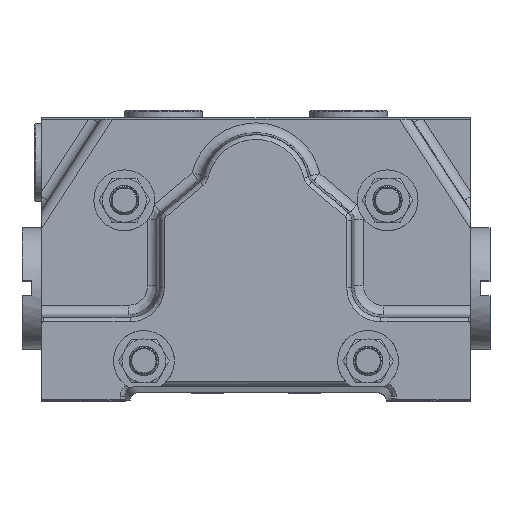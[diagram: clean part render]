
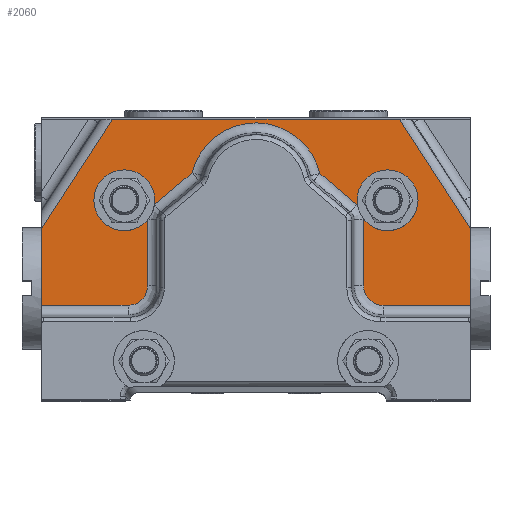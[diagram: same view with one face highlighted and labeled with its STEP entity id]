
A CAD part, top view. The second image highlights one B-rep face of the part: STEP entity #2060.
In plain terms, the highlighted planar face has unit normal (0, 0, 1).
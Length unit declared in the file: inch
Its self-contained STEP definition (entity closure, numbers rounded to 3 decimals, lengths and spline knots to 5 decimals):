
#337=DIRECTION('',(-1.,0.,0.));
#338=VECTOR('',#337,1.10943);
#339=CARTESIAN_POINT('',(-1.01557,-1.49635,1.186));
#340=LINE('',#339,#338);
#350=CARTESIAN_POINT('',(2.313,-0.14881,1.186));
#351=DIRECTION('',(0.,0.,-1.));
#352=DIRECTION('',(1.,0.,0.));
#353=AXIS2_PLACEMENT_3D('',#350,#351,#352);
#355=CARTESIAN_POINT('',(2.313,-0.14881,1.186));
#356=DIRECTION('',(0.,0.,-1.));
#357=DIRECTION('',(-1.,0.,0.));
#358=AXIS2_PLACEMENT_3D('',#355,#356,#357);
#360=CARTESIAN_POINT('',(2.313,-0.14881,1.186));
#361=DIRECTION('',(0.,0.,-1.));
#362=DIRECTION('',(-0.986,-0.169,0.));
#363=AXIS2_PLACEMENT_3D('',#360,#361,#362);
#365=CARTESIAN_POINT('',(-1.063,-0.14881,1.186));
#366=DIRECTION('',(0.,0.,1.));
#367=DIRECTION('',(0.99,-0.143,0.));
#368=AXIS2_PLACEMENT_3D('',#365,#366,#367);
#370=CARTESIAN_POINT('',(-1.063,-0.14881,1.186));
#371=DIRECTION('',(0.,0.,1.));
#372=DIRECTION('',(1.,0.,0.));
#373=AXIS2_PLACEMENT_3D('',#370,#371,#372);
#375=CARTESIAN_POINT('',(-1.063,-0.14881,1.186));
#376=DIRECTION('',(0.,0.,1.));
#377=DIRECTION('',(-1.,0.,0.));
#378=AXIS2_PLACEMENT_3D('',#375,#376,#377);
#380=DIRECTION('',(0.,1.,0.));
#381=VECTOR('',#380,0.982);
#382=CARTESIAN_POINT('',(-2.125,-1.49635,1.186));
#383=LINE('',#382,#381);
#384=DIRECTION('',(1.,0.,0.));
#385=VECTOR('',#384,3.68);
#386=CARTESIAN_POINT('',(-1.215,0.88819,1.186));
#387=LINE('',#386,#385);
#388=DIRECTION('',(0.,1.,0.));
#389=VECTOR('',#388,0.982);
#390=CARTESIAN_POINT('',(3.375,-1.49635,1.186));
#391=LINE('',#390,#389);
#421=CARTESIAN_POINT('',(2.00556,-0.38958,1.186));
#422=CARTESIAN_POINT('',(2.00558,-0.39059,1.186));
#423=CARTESIAN_POINT('',(2.00565,-0.39261,1.186));
#424=CARTESIAN_POINT('',(2.00565,-0.39462,1.186));
#425=CARTESIAN_POINT('',(2.00565,-0.39562,1.186));
#427=CARTESIAN_POINT('',(1.91748,-0.20511,1.186));
#428=CARTESIAN_POINT('',(1.91929,-0.20664,1.186));
#429=CARTESIAN_POINT('',(1.92288,-0.20977,1.186));
#430=CARTESIAN_POINT('',(1.92636,-0.21302,1.186));
#431=CARTESIAN_POINT('',(1.92809,-0.21466,1.186));
#438=DIRECTION('',(0.,1.,0.));
#439=VECTOR('',#438,0.85081);
#440=CARTESIAN_POINT('',(2.00565,-1.24643,1.186));
#441=LINE('',#440,#439);
#451=CARTESIAN_POINT('',(2.25557,-1.49635,1.186));
#452=CARTESIAN_POINT('',(2.23667,-1.49634,1.186));
#453=CARTESIAN_POINT('',(2.19986,-1.49219,1.186));
#454=CARTESIAN_POINT('',(2.14629,-1.47356,1.186));
#455=CARTESIAN_POINT('',(2.09848,-1.44352,1.186));
#456=CARTESIAN_POINT('',(2.05853,-1.40358,1.186));
#457=CARTESIAN_POINT('',(2.02846,-1.35576,1.186));
#458=CARTESIAN_POINT('',(2.00982,-1.30219,1.186));
#459=CARTESIAN_POINT('',(2.00566,-1.26536,1.186));
#460=CARTESIAN_POINT('',(2.00565,-1.24643,1.186));
#487=DIRECTION('',(-1.,0.,0.));
#488=VECTOR('',#487,1.11943);
#489=CARTESIAN_POINT('',(3.375,-1.49635,1.186));
#490=LINE('',#489,#488);
#733=CARTESIAN_POINT('',(-0.76565,-1.24643,
1.186));
#734=CARTESIAN_POINT('',(-0.76566,-1.26533,
1.186));
#735=CARTESIAN_POINT('',(-0.76981,-1.30214,
1.186));
#736=CARTESIAN_POINT('',(-0.78844,-1.35571,
1.186));
#737=CARTESIAN_POINT('',(-0.81848,-1.40352,1.186));
#738=CARTESIAN_POINT('',(-0.85842,-1.44347,1.186));
#739=CARTESIAN_POINT('',(-0.90624,-1.47354,
1.186));
#740=CARTESIAN_POINT('',(-0.95981,-1.49218,
1.186));
#741=CARTESIAN_POINT('',(-0.99664,-1.49634,
1.186));
#742=CARTESIAN_POINT('',(-1.01557,-1.49635,1.186));
#775=DIRECTION('',(0.,-1.,0.));
#776=VECTOR('',#775,0.84449);
#777=CARTESIAN_POINT('',(-0.76565,-0.40194,1.186));
#778=LINE('',#777,#776);
#808=DIRECTION('',(-0.765,-0.644,0.));
#809=VECTOR('',#808,0.63073);
#810=CARTESIAN_POINT('',(-0.1942,0.20164,1.186));
#811=LINE('',#810,#809);
#836=CARTESIAN_POINT('',(0.625,0.,1.186));
#837=DIRECTION('',(0.,0.,-1.));
#838=DIRECTION('',(-0.971,0.239,0.));
#839=AXIS2_PLACEMENT_3D('',#836,#837,#838);
#908=DIRECTION('',(-0.762,0.647,0.));
#909=VECTOR('',#908,0.61887);
#910=CARTESIAN_POINT('',(1.91748,-0.20511,1.186));
#911=LINE('',#910,#909);
#1023=CARTESIAN_POINT('',(2.465,0.88819,1.186));
#1042=DIRECTION('',(0.544,-0.839,0.));
#1043=VECTOR('',#1042,1.67188);
#1044=CARTESIAN_POINT('',(2.465,0.88819,1.186));
#1045=LINE('',#1044,#1043);
#1156=CARTESIAN_POINT('',(-1.215,0.88819,1.186));
#1158=DIRECTION('',(0.544,0.839,0.));
#1159=VECTOR('',#1158,1.67188);
#1160=CARTESIAN_POINT('',(-2.125,-0.51434,1.186));
#1161=LINE('',#1160,#1159);
#1295=CARTESIAN_POINT('',(2.00565,-0.39562,1.186));
#1297=VERTEX_POINT('',#1295);
#1299=CARTESIAN_POINT('',(1.91748,-0.20511,1.186));
#1301=VERTEX_POINT('',#1299);
#1307=VERTEX_POINT('',#733);
#1308=VERTEX_POINT('',#742);
#1318=CARTESIAN_POINT('',(-0.1942,0.20166,1.186));
#1319=CARTESIAN_POINT('',(1.44571,0.19543,1.186));
#1320=VERTEX_POINT('',#1318);
#1321=VERTEX_POINT('',#1319);
#1322=CARTESIAN_POINT('',(2.00565,-1.24643,1.186));
#1323=VERTEX_POINT('',#1322);
#1326=VERTEX_POINT('',#451);
#1415=CARTESIAN_POINT('',(-2.125,-1.49635,1.186));
#1416=CARTESIAN_POINT('',(-2.125,-0.51434,1.186));
#1417=VERTEX_POINT('',#1415);
#1418=VERTEX_POINT('',#1416);
#1419=CARTESIAN_POINT('',(3.375,-1.49635,1.186));
#1420=CARTESIAN_POINT('',(3.375,-0.51434,1.186));
#1421=VERTEX_POINT('',#1419);
#1422=VERTEX_POINT('',#1420);
#1457=VERTEX_POINT('',#1156);
#1458=VERTEX_POINT('',#1023);
#1502=CARTESIAN_POINT('',(-1.4535,-0.14881,1.186));
#1503=CARTESIAN_POINT('',(-0.76565,-0.40194,1.186));
#1504=VERTEX_POINT('',#1502);
#1505=VERTEX_POINT('',#1503);
#1506=CARTESIAN_POINT('',(-0.67649,-0.2045,1.186));
#1507=CARTESIAN_POINT('',(-0.6725,-0.14881,1.186));
#1508=VERTEX_POINT('',#1506);
#1509=VERTEX_POINT('',#1507);
#1515=CARTESIAN_POINT('',(2.7035,-0.14881,1.186));
#1516=VERTEX_POINT('',#1515);
#1517=CARTESIAN_POINT('',(1.9225,-0.14881,1.186));
#1518=VERTEX_POINT('',#1517);
#1525=CARTESIAN_POINT('',(2.00556,-0.38958,1.186));
#1526=VERTEX_POINT('',#1525);
#1527=CARTESIAN_POINT('',(1.92809,-0.21467,1.186));
#1528=VERTEX_POINT('',#1527);
#2011=CARTESIAN_POINT('',(0.625,0.,1.186));
#2012=DIRECTION('',(0.,0.,-1.));
#2013=DIRECTION('',(-1.,0.,0.));
#2014=AXIS2_PLACEMENT_3D('',#2011,#2012,#2013);
#2015=PLANE('',#2014);
#2017=ORIENTED_EDGE('',*,*,#2016,.F.);
#2019=ORIENTED_EDGE('',*,*,#2018,.F.);
#2021=ORIENTED_EDGE('',*,*,#2020,.F.);
#2023=ORIENTED_EDGE('',*,*,#2022,.F.);
#2025=ORIENTED_EDGE('',*,*,#2024,.T.);
#2027=ORIENTED_EDGE('',*,*,#2026,.F.);
#2029=ORIENTED_EDGE('',*,*,#2028,.T.);
#2031=ORIENTED_EDGE('',*,*,#2030,.T.);
#2033=ORIENTED_EDGE('',*,*,#2032,.T.);
#2035=ORIENTED_EDGE('',*,*,#2034,.T.);
#2037=ORIENTED_EDGE('',*,*,#2036,.T.);
#2039=ORIENTED_EDGE('',*,*,#2038,.T.);
#2040=ORIENTED_EDGE('',*,*,#2003,.T.);
#2041=ORIENTED_EDGE('',*,*,#1584,.T.);
#2043=ORIENTED_EDGE('',*,*,#2042,.T.);
#2045=ORIENTED_EDGE('',*,*,#2044,.T.);
#2047=ORIENTED_EDGE('',*,*,#2046,.T.);
#2049=ORIENTED_EDGE('',*,*,#2048,.F.);
#2051=ORIENTED_EDGE('',*,*,#2050,.T.);
#2053=ORIENTED_EDGE('',*,*,#2052,.T.);
#2055=ORIENTED_EDGE('',*,*,#2054,.T.);
#2057=ORIENTED_EDGE('',*,*,#2056,.F.);
#2058=EDGE_LOOP('',(#2017,#2019,#2021,#2023,#2025,#2027,#2029,#2031,#2033,#2035,
#2037,#2039,#2040,#2041,#2043,#2045,#2047,#2049,#2051,#2053,#2055,#2057));
#2059=FACE_OUTER_BOUND('',#2058,.F.);
#2060=ADVANCED_FACE('',(#2059),#2015,.F.);
#354=CIRCLE('',#353,0.3905);
#359=CIRCLE('',#358,0.3905);
#364=CIRCLE('',#363,0.3905);
#369=CIRCLE('',#368,0.3905);
#374=CIRCLE('',#373,0.3905);
#379=CIRCLE('',#378,0.3905);
#426=B_SPLINE_CURVE_WITH_KNOTS('',3,(#421,#422,#423,#424,#425),.UNSPECIFIED.,
.F.,.F.,(4,1,4),(0.,0.5,1.),.UNSPECIFIED.);
#432=B_SPLINE_CURVE_WITH_KNOTS('',3,(#427,#428,#429,#430,#431),.UNSPECIFIED.,
.F.,.F.,(4,1,4),(0.,0.5,1.),.UNSPECIFIED.);
#461=B_SPLINE_CURVE_WITH_KNOTS('',3,(#451,#452,#453,#454,#455,#456,#457,#458,
#459,#460),.UNSPECIFIED.,.F.,.F.,(4,1,1,1,1,1,1,4),(0.,0.14286,
0.28571,0.42857,0.57143,0.71429,
0.85714,1.),.UNSPECIFIED.);
#743=B_SPLINE_CURVE_WITH_KNOTS('',3,(#733,#734,#735,#736,#737,#738,#739,#740,
#741,#742),.UNSPECIFIED.,.F.,.F.,(4,1,1,1,1,1,1,4),(0.,0.14286,
0.28571,0.42857,0.57143,0.71429,
0.85714,1.),.UNSPECIFIED.);
#840=CIRCLE('',#839,0.84365);
#1584=EDGE_CURVE('',#1417,#1418,#383,.T.);
#2003=EDGE_CURVE('',#1308,#1417,#340,.T.);
#2016=EDGE_CURVE('',#1516,#1526,#354,.T.);
#2018=EDGE_CURVE('',#1518,#1516,#359,.T.);
#2020=EDGE_CURVE('',#1528,#1518,#364,.T.);
#2022=EDGE_CURVE('',#1301,#1528,#432,.T.);
#2024=EDGE_CURVE('',#1301,#1321,#911,.T.);
#2026=EDGE_CURVE('',#1320,#1321,#840,.T.);
#2028=EDGE_CURVE('',#1320,#1508,#811,.T.);
#2030=EDGE_CURVE('',#1508,#1509,#369,.T.);
#2032=EDGE_CURVE('',#1509,#1504,#374,.T.);
#2034=EDGE_CURVE('',#1504,#1505,#379,.T.);
#2036=EDGE_CURVE('',#1505,#1307,#778,.T.);
#2038=EDGE_CURVE('',#1307,#1308,#743,.T.);
#2042=EDGE_CURVE('',#1418,#1457,#1161,.T.);
#2044=EDGE_CURVE('',#1457,#1458,#387,.T.);
#2046=EDGE_CURVE('',#1458,#1422,#1045,.T.);
#2048=EDGE_CURVE('',#1421,#1422,#391,.T.);
#2050=EDGE_CURVE('',#1421,#1326,#490,.T.);
#2052=EDGE_CURVE('',#1326,#1323,#461,.T.);
#2054=EDGE_CURVE('',#1323,#1297,#441,.T.);
#2056=EDGE_CURVE('',#1526,#1297,#426,.T.);
